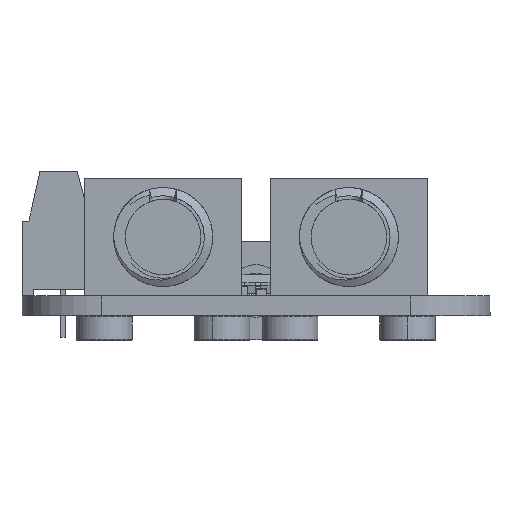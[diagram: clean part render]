
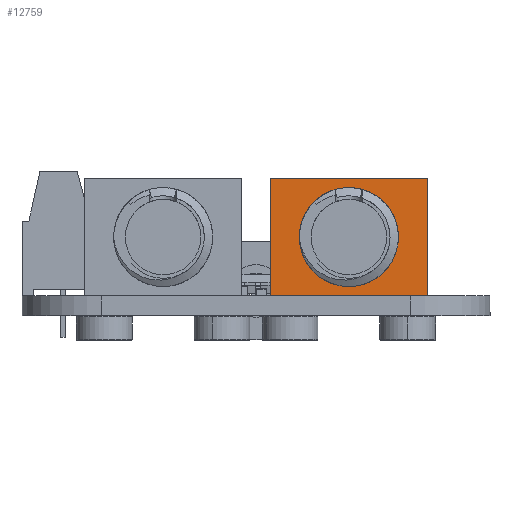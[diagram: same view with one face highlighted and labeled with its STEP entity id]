
A CAD part, left-side view. The second image highlights one B-rep face of the part: STEP entity #12759.
In plain terms, the highlighted planar face has unit normal (-1, 0, 0) as drawn and (0, 1, 0) by its records, which use the part's own axes.
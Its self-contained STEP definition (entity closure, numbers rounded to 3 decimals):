
#1455 = CARTESIAN_POINT ( 'NONE',  ( 9.45, 3.201, 7.277 ) ) ;
#1622 = ORIENTED_EDGE ( 'NONE', *, *, #40084, .T. ) ;
#3569 = ORIENTED_EDGE ( 'NONE', *, *, #53070, .F. ) ;
#3973 = EDGE_CURVE ( 'NONE', #10347, #13233, #11036, .T. ) ;
#4101 = CARTESIAN_POINT ( 'NONE',  ( 0., 3.201, 7.277 ) ) ;
#6873 = EDGE_LOOP ( 'NONE', ( #55866, #3569, #1622, #36713 ) ) ;
#8567 = ORIENTED_EDGE ( 'NONE', *, *, #41942, .T. ) ;
#8646 = DIRECTION ( 'NONE',  ( 0., -1., 0. ) ) ;
#8757 = DIRECTION ( 'NONE',  ( 0., 0., 1. ) ) ;
#9177 = DIRECTION ( 'NONE',  ( 0., 0., -1. ) ) ;
#9542 = DIRECTION ( 'NONE',  ( -1., 0., 0. ) ) ;
#9589 = CARTESIAN_POINT ( 'NONE',  ( 9.45, 3.201, 0. ) ) ;
#9992 = FACE_OUTER_BOUND ( 'NONE', #6873, .T. ) ;
#10347 = VERTEX_POINT ( 'NONE', #4101 ) ;
#10970 = VECTOR ( 'NONE', #35498, 1000. ) ;
#11036 = LINE ( 'NONE', #42146, #18712 ) ;
#11646 = CARTESIAN_POINT ( 'NONE',  ( 4.725, 3.201, 4.027 ) ) ;
#12759 = ADVANCED_FACE ( 'NONE', ( #9992, #28729 ), #22522, .F. ) ;
#12819 = CIRCLE ( 'NONE', #51051, 3.1 ) ;
#13233 = VERTEX_POINT ( 'NONE', #1455 ) ;
#14541 = VERTEX_POINT ( 'NONE', #11646 ) ;
#16075 = VERTEX_POINT ( 'NONE', #55664 ) ;
#18712 = VECTOR ( 'NONE', #51253, 1000. ) ;
#19983 = ORIENTED_EDGE ( 'NONE', *, *, #36465, .T. ) ;
#21041 = AXIS2_PLACEMENT_3D ( 'NONE', #30505, #8646, #52999 ) ;
#22475 = VECTOR ( 'NONE', #45671, 1000. ) ;
#22522 = PLANE ( 'NONE',  #41086 ) ;
#26182 = DIRECTION ( 'NONE',  ( 0., -1., 0. ) ) ;
#26291 = CIRCLE ( 'NONE', #21041, 3.1 ) ;
#27614 = EDGE_LOOP ( 'NONE', ( #8567, #19983 ) ) ;
#28729 = FACE_BOUND ( 'NONE', #27614, .T. ) ;
#30505 = CARTESIAN_POINT ( 'NONE',  ( 4.725, 3.201, 0.927 ) ) ;
#32001 = CARTESIAN_POINT ( 'NONE',  ( 0., 3.201, -5.423 ) ) ;
#34940 = LINE ( 'NONE', #40812, #22475 ) ;
#35498 = DIRECTION ( 'NONE',  ( 0., 0., 1. ) ) ;
#36465 = EDGE_CURVE ( 'NONE', #16075, #14541, #12819, .T. ) ;
#36579 = CARTESIAN_POINT ( 'NONE',  ( 9.45, 3.201, -5.423 ) ) ;
#36713 = ORIENTED_EDGE ( 'NONE', *, *, #37635, .T. ) ;
#37635 = EDGE_CURVE ( 'NONE', #55013, #10347, #34940, .T. ) ;
#40084 = EDGE_CURVE ( 'NONE', #54009, #55013, #52304, .T. ) ;
#40333 = DIRECTION ( 'NONE',  ( 0., -1., 0. ) ) ;
#40532 = VECTOR ( 'NONE', #9542, 1000. ) ;
#40812 = CARTESIAN_POINT ( 'NONE',  ( 0., 3.201, 0. ) ) ;
#41086 = AXIS2_PLACEMENT_3D ( 'NONE', #49264, #40333, #9177 ) ;
#41942 = EDGE_CURVE ( 'NONE', #14541, #16075, #26291, .T. ) ;
#42146 = CARTESIAN_POINT ( 'NONE',  ( 9.45, 3.201, 7.277 ) ) ;
#43787 = CARTESIAN_POINT ( 'NONE',  ( 4.725, 3.201, 0.927 ) ) ;
#45671 = DIRECTION ( 'NONE',  ( 0., 0., 1. ) ) ;
#46995 = LINE ( 'NONE', #9589, #10970 ) ;
#49264 = CARTESIAN_POINT ( 'NONE',  ( 9.45, 3.201, 7.277 ) ) ;
#51051 = AXIS2_PLACEMENT_3D ( 'NONE', #43787, #26182, #8757 ) ;
#51096 = CARTESIAN_POINT ( 'NONE',  ( 9.45, 3.201, -5.423 ) ) ;
#51253 = DIRECTION ( 'NONE',  ( 1., 0., 0. ) ) ;
#52304 = LINE ( 'NONE', #36579, #40532 ) ;
#52999 = DIRECTION ( 'NONE',  ( 0., 0., 1. ) ) ;
#53070 = EDGE_CURVE ( 'NONE', #54009, #13233, #46995, .T. ) ;
#54009 = VERTEX_POINT ( 'NONE', #51096 ) ;
#55013 = VERTEX_POINT ( 'NONE', #32001 ) ;
#55664 = CARTESIAN_POINT ( 'NONE',  ( 4.725, 3.201, -2.173 ) ) ;
#55866 = ORIENTED_EDGE ( 'NONE', *, *, #3973, .T. ) ;
